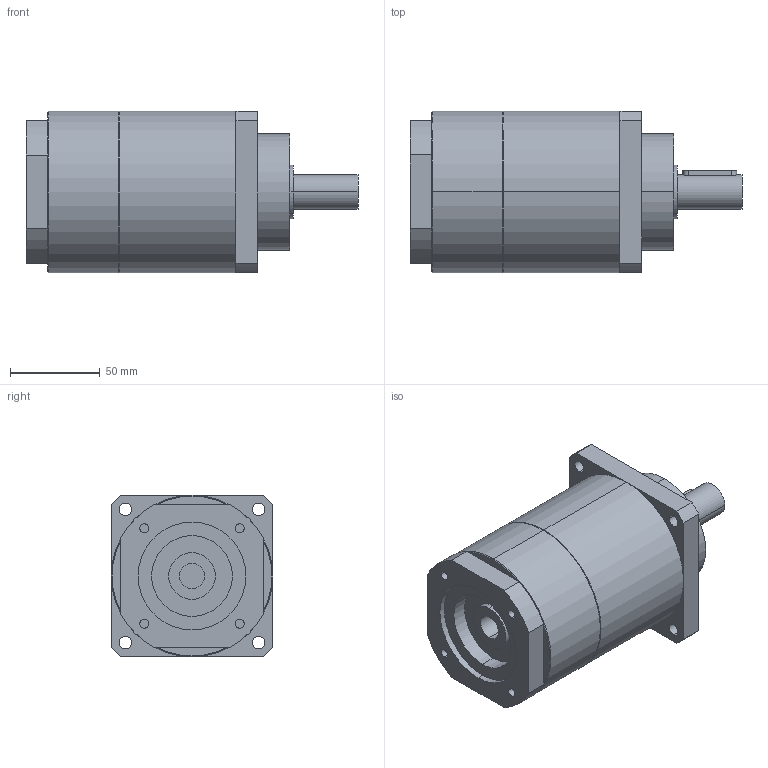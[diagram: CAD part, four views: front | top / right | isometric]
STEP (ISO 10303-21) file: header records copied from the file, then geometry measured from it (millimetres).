
FILE_DESCRIPTION(('CoCreate Modeling STEP Export'),'2;1');
FILE_NAME('GPT90_ig-9-12-16-20-25-28-35-40-50-70-100_19_B5T_14_P23.stp','2015-02-04T11:29:46',(''),(''),'CoCreate Modeling STEP processor for AP214 (Solid Model)','CoCreate Modeling 16.00C 25-Feb-2009 (C) Parametric Technology GmbH','');
FILE_SCHEMA(('AUTOMOTIVE_DESIGN { 1 0 10303 214 1 1 1 1 }'));
Length unit declared in the file: millimetre
Products named in the file (2): GPT90_ig-9-12-16-20-25-28-35-40-50-70-100_19_B5T_14_P23
Assembly tree (1 placements, depth 2):
  GPT90_ig-9-12-16-20-25-28-35-40-50-70-100_19_B5T_14_P23
    GPT90_ig-9-12-16-20-25-28-35-40-50-70-100_19_B5T_14_P23
Bounding box: 185 x 90 x 90 mm (x, y, z)
Volume: 875483.7 mm3; surface area: 65150.7 mm2
Topology: 1 solids, 1 shells, 88 faces, 221 edges, 148 vertices
Faces by surface type: cylinder 46, plane 38, cone 4
Entity records: 2699 total; most frequent: CARTESIAN_POINT 754, ORIENTED_EDGE 442, DIRECTION 330, EDGE_CURVE 221, VERTEX_POINT 148, AXIS2_PLACEMENT_3D 121, EDGE_LOOP 109, VECTOR 88
